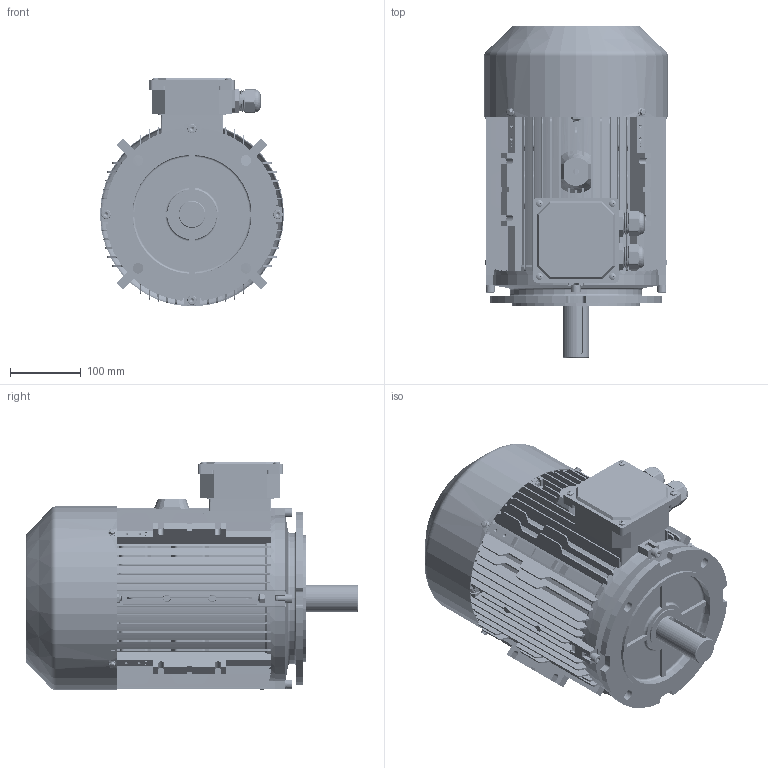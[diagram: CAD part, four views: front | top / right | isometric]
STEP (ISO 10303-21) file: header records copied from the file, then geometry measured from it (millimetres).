
FILE_DESCRIPTION (( 'STEP AP203' ), '1' );
FILE_NAME ('ME3-132S B5R 3D.STEP', '2024-07-27T02:16:45', ( 'User' ), ( 'China' ), 'SwSTEP 2.0', 'SolidWorks 2018', '' );
FILE_SCHEMA (( 'CONFIG_CONTROL_DESIGN' ));
Length unit declared in the file: millimetre
Products named in the file (18): MS112-132諉盄碟裔; M24 蹟杶簸; 40X58X7蚐猾; hexagon socket head cap screws gb_GB_FASTENER_SCREWS_HSHCS M8X40-S; ME3-132B5R傷裔; hex nuts-style normal-grades ab gb_GB_HEXAGON_TYPE10 M8X1-S; ME3-132S儂褲; ME3-132S B5R   3D; spring lock washers--normal type gb_GB_FASTENER_WASHER_SW 8; ME3-132 B3傷裔; hexagon socket head cap screws gb_GB_FASTENER_SCREWS_HSHCS M8X30-S; deep groove ball bearings gb_Rolling bearings 6308 GB 276-94; ME3-132瑞欶; ME3-132S蛌粣; hex flange bolts-heavy grade b gb_GB_FASTENER_BOLT_HFBB M5X10-S; MS112-132 諉盄碟釱; cross recessed pan head screws gb_GB_CROSS_SCREWS_TYPE1 M5X8-8  H type-S; M24 蹟杶
Assembly tree (45 placements, depth 2):
  ME3-132S B5R   3D
    ME3-132S儂褲
    ME3-132 B3傷裔
    deep groove ball bearings gb_Rolling bearings 6308 GB 276-94  x2
    ME3-132S蛌粣
    MS112-132 諉盄碟釱
    M24 蹟杶  x2
    M24 蹟杶簸  x2
    hexagon socket head cap screws gb_GB_FASTENER_SCREWS_HSHCS M8X40-S  x7
    hex nuts-style normal-grades ab gb_GB_HEXAGON_TYPE10 M8X1-S  x7
    spring lock washers--normal type gb_GB_FASTENER_WASHER_SW 8  x4
    hexagon socket head cap screws gb_GB_FASTENER_SCREWS_HSHCS M8X30-S
    ME3-132瑞欶
    hex flange bolts-heavy grade b gb_GB_FASTENER_BOLT_HFBB M5X10-S  x4
    cross recessed pan head screws gb_GB_CROSS_SCREWS_TYPE1 M5X8-8  H type-S  x8
    MS112-132諉盄碟裔
    40X58X7蚐猾
    ME3-132B5R傷裔
Bounding box: 259.6 x 467.96 x 322.8 mm (x, y, z)
Volume: 3500847.1 mm3; surface area: 1662124.7 mm2
Topology: 46 solids, 47 shells, 6864 faces, 17007 edges, 10200 vertices
Faces by surface type: cone 2418, plane 2226, cylinder 1868, torus 232, sphere 76, bspline 44
Entity records: 131793 total; most frequent: CARTESIAN_POINT 34053, ORIENTED_EDGE 20506, DIRECTION 19002, EDGE_CURVE 10253, VERTEX_POINT 6546, AXIS2_PLACEMENT_3D 6336, LINE 6330, VECTOR 6330
